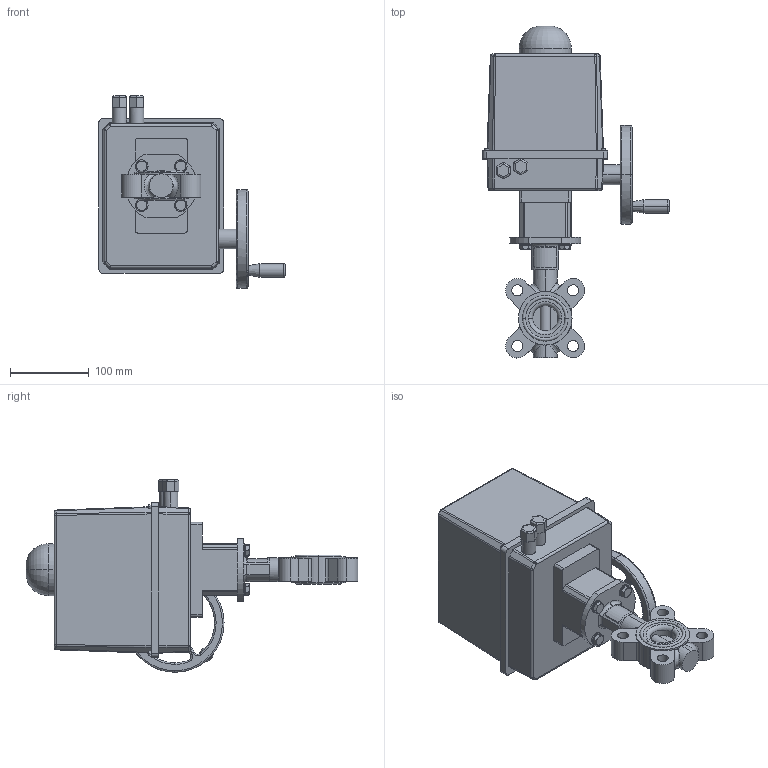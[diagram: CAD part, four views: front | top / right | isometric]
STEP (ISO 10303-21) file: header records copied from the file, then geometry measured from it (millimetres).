
FILE_DESCRIPTION (( 'STEP AP214' ), '1' );
FILE_NAME ('67659.step', '2020-10-26T06:44:10', ( '' ), ( '' ), 'SwSTEP 2.0', 'SolidWorks 2019', '' );
FILE_SCHEMA (( 'AUTOMOTIVE_DESIGN' ));
Length unit declared in the file: millimetre
Products named in the file (6): TL20-0032_M01; 67659; U-Scheibe DIN 125 A_M8; 6kt-Schr DIN 933_M8x25; PSQ 103_PSQ 103-36-24VDC-F07; Steckkupplung PSQ 103_PSQ 103 VK-11
Assembly tree (11 placements, depth 2):
  67659
    TL20-0032_M01
    PSQ 103_PSQ 103-36-24VDC-F07
    Steckkupplung PSQ 103_PSQ 103 VK-11
    6kt-Schr DIN 933_M8x25  x4
    U-Scheibe DIN 125 A_M8  x4
Bounding box: 236 x 420.83 x 244 mm (x, y, z)
Volume: 5375020 mm3; surface area: 299706.6 mm2
Topology: 11 solids, 11 shells, 797 faces, 2032 edges, 1256 vertices
Faces by surface type: cylinder 335, plane 318, torus 65, cone 53, sphere 16, bspline 10
Entity records: 25949 total; most frequent: CARTESIAN_POINT 5070, DIRECTION 3815, ORIENTED_EDGE 3584, EDGE_CURVE 1792, AXIS2_PLACEMENT_3D 1443, VERTEX_POINT 1136, LINE 929, VECTOR 929
